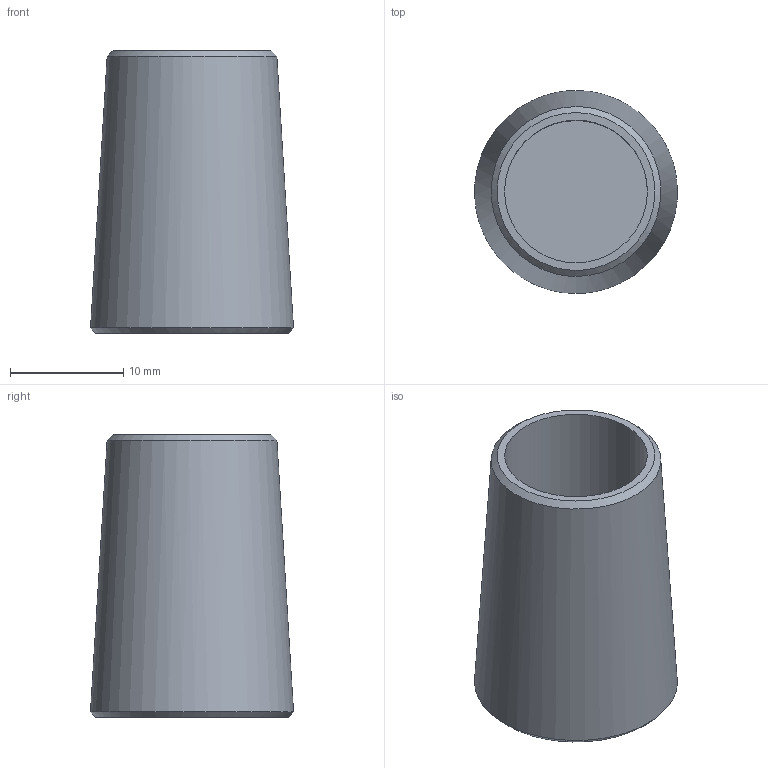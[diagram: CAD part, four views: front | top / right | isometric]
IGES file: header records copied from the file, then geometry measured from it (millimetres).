
Global section: file name: 520-012-KMU; native system: Autodesk Inventor 2016; preprocessor: unknown; author: BAYR; date: 20200618.122215; units: millimetre
Bounding box: 17.93 x 17.94 x 25 mm (x, y, z)
Volume: 2961.5 mm3; surface area: 2447.6 mm2
Topology: 1 solids, 1 shells, 7 faces, 14 edges, 10 vertices
Faces by surface type: bspline 7
